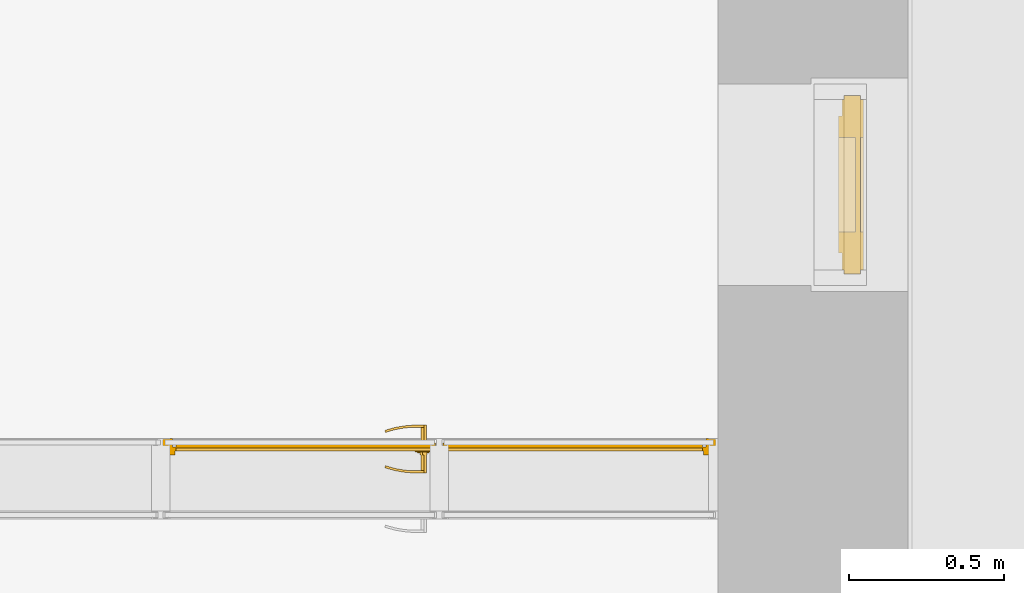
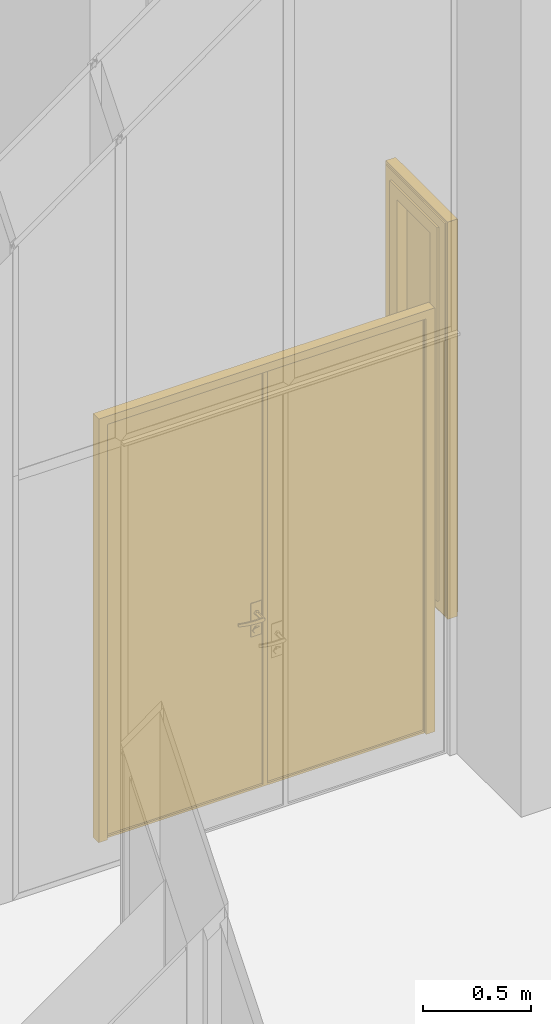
# One storey, part 163 of 246: 1 door, 1 window, 2 elements without a shape of their own.
"""IFC2X3 building model written with IfcOpenShell, lengths in millimetres."""

from ifc_helpers import new_model, entity, si_unit, converted_unit, derived_unit, money_unit, direction, frame, origin_with_axes, place, context, subcontext, project, spatial, open_shell, faceted_brep, surface_model, material, material_list, type_object, element, aggregate, save


model = new_model("IFC2X3")

# Units and contexts
model_context = context("Model", 3, precision=0.01, world=origin_with_axes(), true_north=direction((0.0, 1.0)))
body_context = subcontext(model_context, "Body", "Model", "MODEL_VIEW")
ifc_project = project(units=[si_unit("LENGTHUNIT", "METRE", prefix="MILLI"), si_unit("AREAUNIT", "SQUARE_METRE"), si_unit("VOLUMEUNIT", "CUBIC_METRE"), converted_unit("PLANEANGLEUNIT", "DEGREE", entity("IfcPlaneAngleMeasure", 0.0174532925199), si_unit("PLANEANGLEUNIT", "RADIAN"), dimensions=[0, 0, 0, 0, 0, 0, 0]), si_unit("SOLIDANGLEUNIT", "STERADIAN"), money_unit("EUR"), converted_unit("TIMEUNIT", "Year", entity("IfcTimeMeasure", 31556926.0), si_unit("TIMEUNIT", "SECOND"), dimensions=[0, 0, 1, 0, 0, 0, 0]), si_unit("MASSUNIT", "GRAM", prefix="KILO"), si_unit("THERMODYNAMICTEMPERATUREUNIT", "DEGREE_CELSIUS"), si_unit("LUMINOUSINTENSITYUNIT", "LUMEN"), si_unit("ENERGYUNIT", "JOULE", prefix="MEGA"), derived_unit("THERMALCONDUCTANCEUNIT", [(si_unit("POWERUNIT", "WATT"), 1), (si_unit("LENGTHUNIT", "METRE"), -1), (si_unit("THERMODYNAMICTEMPERATUREUNIT", "KELVIN"), -1)]), derived_unit("SPECIFICHEATCAPACITYUNIT", [(si_unit("ENERGYUNIT", "JOULE"), 1), (si_unit("MASSUNIT", "GRAM", prefix="KILO"), -1), (si_unit("THERMODYNAMICTEMPERATUREUNIT", "KELVIN"), -1)]), derived_unit("MASSDENSITYUNIT", [(si_unit("MASSUNIT", "GRAM", prefix="KILO"), 1), (si_unit("VOLUMEUNIT", "CUBIC_METRE"), -1)])], contexts=[model_context])

# Site, building, storey
site_placement = place(None, origin_with_axes())
site = spatial("IfcSite", under=ifc_project, at=site_placement, Name="L.Koidula tn 11b", CompositionType="ELEMENT")
building_placement = place(site_placement, origin_with_axes())
building = spatial("IfcBuilding", under=site, at=building_placement, Name="Rakvere Riigigümnaasium", CompositionType="ELEMENT")
storey_placement = place(building_placement, origin_with_axes())
storey = spatial("IfcBuildingStorey", under=building, at=storey_placement, Name="1.korrus 0,00", CompositionType="ELEMENT", Elevation=0.0)

# Curtain wall, door
curtain_wall_type = type_object("IfcCurtainWallType", Name="Curtain Wall Type", PredefinedType="NOTDEFINED")
curtain_wall_1_placement = place(storey_placement, frame((46549.9999923, 61580.5357918, -4.47035262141e-05), z_axis=(0.0, 0.0, 1.0), x_axis=(1.0, 0.0, 0.0)))
curtain_wall_1 = element("IfcCurtainWall", 1, at=curtain_wall_1_placement, inside=storey, type_object=curtain_wall_type, Name="SKLF-05")
ifc_material_1 = material(Name="Alumiinium.")
ifc_material_2 = material(Name="VKR-05_Klaas")
ifc_material_3 = material(Name="ET-07_Teras - Roostevaba")
ifc_material_list_1 = material_list([ifc_material_1, ifc_material_2, ifc_material_3])
door_style = type_object("IfcDoorStyle", Name="Siseklaasfassaad - Klaasuks-2-poolne 900 x 2385 x 20", ConstructionType="NOTDEFINED", OperationType="NOTDEFINED", ParameterTakesPrecedence=False, Sizeable=False)
door_placement = place(curtain_wall_1_placement, frame((-450.000000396, 0.0, 1200.00002235), z_axis=(0.0, 0.0, 1.0), x_axis=(-1.0, 0.0, 0.0)))
door = element("IfcDoor", 2, at=door_placement, type_object=door_style, material=ifc_material_list_1, Name="Panel-Siseklaasf-009", ObjectType="DOOR", context=body_context, shape_type="SurfaceModel", body=[
    faceted_brep([(-900.000001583, 20.0, -1200.00002235), (-900.000001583, 20.0, 1200.00002235), (-900.000001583, 34.0, 1200.00002235), (-900.000001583, 34.0, -1200.00002235), (-854.000001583, 20.0, -1200.00002235), (-854.000001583, 20.0, 1154.00002235), (-854.000001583, 34.0, 1154.00002235), (-854.000001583, 34.0, -1200.00002235)], [[[0, 1, 2, 3]], [[0, 4, 5, 1]], [[1, 5, 6, 2]], [[3, 2, 6, 7]], [[4, 0, 3, 7]], [[5, 4, 7, 6]]]),
    faceted_brep([(900.000000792, 20.0, 1200.00002235), (854.000000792, 20.0, 1154.00002235), (854.000000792, 34.0, 1154.00002235), (900.000000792, 34.0, 1200.00002235), (-900.000001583, 20.0, 1200.00002235), (-854.000001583, 20.0, 1154.00002235), (-854.000001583, 34.0, 1154.00002235), (-900.000001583, 34.0, 1200.00002235)], [[[0, 1, 2, 3]], [[0, 4, 5, 1]], [[1, 5, 6, 2]], [[3, 2, 6, 7]], [[4, 0, 3, 7]], [[5, 4, 7, 6]]]),
    faceted_brep([(900.000000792, 20.0, -1200.00002235), (854.000000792, 20.0, -1200.00002235), (854.000000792, 34.0, -1200.00002235), (900.000000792, 34.0, -1200.00002235), (900.000000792, 20.0, 1200.00002235), (854.000000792, 20.0, 1154.00002235), (854.000000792, 34.0, 1154.00002235), (900.000000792, 34.0, 1200.00002235)], [[[0, 1, 2, 3]], [[0, 4, 5, 1]], [[1, 5, 6, 2]], [[3, 2, 6, 7]], [[4, 0, 3, 7]], [[5, 4, 7, 6]]]),
    faceted_brep([(-900.000001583, -20.0, -1200.00002235), (-900.000001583, -20.0, 1200.00002235), (-900.000001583, 20.0, 1200.00002235), (-900.000001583, 20.0, -1200.00002235), (-862.000001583, -20.0, -1200.00002235), (-862.000001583, -20.0, 1162.00002235), (-862.000001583, 20.0, 1162.00002235), (-862.000001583, 20.0, -1200.00002235)], [[[0, 1, 2, 3]], [[0, 4, 5, 1]], [[1, 5, 6, 2]], [[3, 2, 6, 7]], [[4, 0, 3, 7]], [[5, 4, 7, 6]]]),
    faceted_brep([(900.000000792, -20.0, 1200.00002235), (862.000000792, -20.0, 1162.00002235), (862.000000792, 20.0, 1162.00002235), (900.000000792, 20.0, 1200.00002235), (-900.000001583, -20.0, 1200.00002235), (-862.000001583, -20.0, 1162.00002235), (-862.000001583, 20.0, 1162.00002235), (-900.000001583, 20.0, 1200.00002235)], [[[0, 1, 2, 3]], [[0, 4, 5, 1]], [[1, 5, 6, 2]], [[3, 2, 6, 7]], [[4, 0, 3, 7]], [[5, 4, 7, 6]]]),
    faceted_brep([(900.000000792, -20.0, -1200.00002235), (862.000000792, -20.0, -1200.00002235), (862.000000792, 20.0, -1200.00002235), (900.000000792, 20.0, -1200.00002235), (900.000000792, -20.0, 1200.00002235), (862.000000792, -20.0, 1162.00002235), (862.000000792, 20.0, 1162.00002235), (900.000000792, 20.0, 1200.00002235)], [[[0, 1, 2, 3]], [[0, 4, 5, 1]], [[1, 5, 6, 2]], [[3, 2, 6, 7]], [[4, 0, 3, 7]], [[5, 4, 7, 6]]]),
    faceted_brep([(-900.000001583, -10.0, 1200.00002235), (900.000000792, -10.0, 1200.00002235), (900.000000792, 10.0, 1200.00002235), (-900.000001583, 10.0, 1200.00002235), (-899.999996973, -10.0, 1185.00002207), (900.000000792, -10.0, 1185.00002207), (900.000000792, 10.0, 1185.00002207), (-899.999996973, 10.0, 1185.00002207)], [[[0, 1, 2, 3]], [[0, 4, 5, 1]], [[1, 5, 6, 2]], [[3, 2, 6, 7]], [[4, 0, 3, 7]], [[5, 4, 7, 6]]]),
    faceted_brep([(850.000000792, 20.0, -1188.00002235), (850.000000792, 8.0, -1188.00002235), (850.000000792, 8.0, 1150.00002235), (850.000000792, 20.0, 1150.00002235), (862.000000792, 20.0, -1200.00002235), (862.000000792, 8.0, -1200.00002235), (862.000000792, 8.0, 1162.00002235), (862.000000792, 20.0, 1162.00002235)], [[[0, 1, 2, 3]], [[4, 5, 1, 0]], [[1, 5, 6, 2]], [[3, 2, 6, 7]], [[0, 3, 7, 4]], [[7, 6, 5, 4]]]),
    faceted_brep([(-3.95786514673e-07, 20.0, -1200.00002235), (-3.95786514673e-07, 8.0, -1200.00002235), (-3.95786514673e-07, 8.0, 1162.00002235), (-3.95786514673e-07, 20.0, 1162.00002235), (11.9999996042, 20.0, -1188.00002235), (11.9999996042, 8.0, -1188.00002235), (11.9999996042, 8.0, 1150.00002235), (11.9999996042, 20.0, 1150.00002235)], [[[0, 1, 2, 3]], [[4, 5, 1, 0]], [[1, 5, 6, 2]], [[3, 2, 6, 7]], [[0, 3, 7, 4]], [[7, 6, 5, 4]]]),
    faceted_brep([(-3.95786514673e-07, 20.0, -1200.00002235), (-3.95786514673e-07, 8.0, -1200.00002235), (11.9999996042, 8.0, -1188.00002235), (11.9999996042, 20.0, -1188.00002235), (862.000000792, 20.0, -1200.00002235), (862.000000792, 8.0, -1200.00002235), (850.000000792, 8.0, -1188.00002235), (850.000000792, 20.0, -1188.00002235)], [[[0, 1, 2, 3]], [[4, 5, 1, 0]], [[1, 5, 6, 2]], [[3, 2, 6, 7]], [[0, 3, 7, 4]], [[7, 6, 5, 4]]]),
    faceted_brep([(862.000000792, 20.0, 1162.00002235), (862.000000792, 8.0, 1162.00002235), (850.000000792, 8.0, 1150.00002235), (850.000000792, 20.0, 1150.00002235), (-3.95786514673e-07, 20.0, 1162.00002235), (-3.95786514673e-07, 8.0, 1162.00002235), (11.9999996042, 8.0, 1150.00002235), (11.9999996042, 20.0, 1150.00002235)], [[[0, 1, 2, 3]], [[4, 5, 1, 0]], [[1, 5, 6, 2]], [[3, 2, 6, 7]], [[0, 3, 7, 4]], [[7, 6, 5, 4]]]),
    faceted_brep([(850.000000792, 10.0, -1188.00002235), (850.000000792, -6.0, -1188.00002235), (11.9999996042, -6.0, -1188.00002235), (11.9999996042, 10.0, -1188.00002235), (850.000000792, 10.0, 1150.00002235), (850.000000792, -6.0, 1150.00002235), (11.9999996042, -6.0, 1150.00002235), (11.9999996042, 10.0, 1150.00002235)], [[[0, 1, 2, 3]], [[4, 5, 1, 0]], [[1, 5, 6, 2]], [[3, 2, 6, 7]], [[0, 3, 7, 4]], [[7, 6, 5, 4]]]),
    faceted_brep([(21.4999996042, 8.0, -140.000022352), (21.4999996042, 5.0, -140.000022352), (78.4999996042, 5.0, -140.000022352), (78.4999996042, 8.0, -140.000022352), (21.4999996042, 8.0, -330.000022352), (21.4999996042, 5.0, -330.000022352), (78.4999996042, 5.0, -330.000022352), (78.4999996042, 8.0, -330.000022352)], [[[0, 1, 2, 3]], [[4, 5, 1, 0]], [[1, 5, 6, 2]], [[3, 2, 6, 7]], [[0, 3, 7, 4]], [[7, 6, 5, 4]]]),
    surface_model("IfcShellBasedSurfaceModel", [(49.9999996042, -56.0, -210.000022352), (49.9999996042, -63.0, -210.000022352), (41.3397455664, -63.0, -205.000022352), (41.3397455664, -56.0, -205.000022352), (74.9999996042, -56.0, -210.000022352), (74.9999996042, -63.0, -210.000022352), (74.9999996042, -63.0, -190.000022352), (49.9999996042, -63.0, -190.000022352), (41.3397455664, -63.0, -195.000022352), (41.3397455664, -56.0, -195.000022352), (49.9999996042, -56.0, -190.000022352), (74.9999996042, -56.0, -190.000022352)], [open_shell([[[0, 1, 2, 3]], [[4, 5, 1, 0]], [[1, 5, 6, 7, 8, 2]], [[3, 2, 8, 9]], [[0, 3, 9, 10, 11, 4]], [[10, 7, 6, 11]], [[9, 8, 7, 10]]])]),
    surface_model("IfcShellBasedSurfaceModel", [(74.9999996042, -56.0, -190.000022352), (88.4039090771, -63.0, -190.392721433), (88.0982824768, -56.0, -190.392721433), (74.9999996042, -63.0, -190.000022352), (115.109716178, -60.6635446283, -191.178119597), (88.0982824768, -56.0, -209.60732327), (74.9999996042, -56.0, -210.000022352), (74.9999996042, -63.0, -210.000022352), (88.4039090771, -63.0, -209.60732327), (115.109716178, -60.6635446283, -208.821925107), (114.19516238, -53.716818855, -191.178119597), (114.19516238, -53.716818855, -208.821925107), (141.510264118, -56.0084157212, -208.036526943), (141.510264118, -56.0084157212, -191.96351776), (139.993743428, -49.1678329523, -191.96351776), (139.993743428, -49.1678329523, -208.036526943), (167.404628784, -49.0700416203, -207.25112878), (167.404628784, -49.0700416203, -192.748915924), (165.297682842, -42.3876628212, -192.748915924), (165.297682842, -42.3876628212, -207.25112878), (175.461203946, -46.1376880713, -207.000022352), (175.461203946, -46.1376880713, -193.000022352), (173.170557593, -39.5221707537, -193.000022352), (173.170557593, -39.5221707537, -207.000022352)], [open_shell([[[0, 1, 2]], [[0, 3, 1]], [[2, 1, 4]], [[0, 2, 5, 6]], [[3, 7, 8, 1]], [[1, 8, 9, 4]], [[2, 4, 10]], [[2, 10, 11, 5]], [[5, 7, 6]], [[5, 8, 7]], [[11, 9, 8]], [[4, 9, 12, 13]], [[10, 4, 13]], [[10, 14, 15, 11]], [[11, 8, 5]], [[15, 9, 11]], [[15, 12, 9]], [[13, 12, 16, 17]], [[10, 13, 14]], [[14, 18, 19, 15]], [[19, 12, 15]], [[19, 16, 12]], [[17, 16, 20, 21]], [[14, 13, 17]], [[14, 17, 18]], [[18, 22, 23, 19]], [[23, 16, 19]], [[23, 20, 16]], [[22, 21, 20, 23]], [[18, 17, 21]], [[18, 21, 22]]])]),
    faceted_brep([(53.7082035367, -5.0, -211.412700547), (54.0172205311, 5.0, -212.363757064), (62.9999996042, 5.0, -200.000022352), (61.9999996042, -5.0, -200.000022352), (40.2917956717, -5.0, -207.053445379), (39.4827786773, 5.0, -207.641230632), (39.4827786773, 5.0, -192.358814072), (54.0172205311, 5.0, -187.63628764), (53.7082035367, -5.0, -188.587344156), (40.2917956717, -5.0, -192.946599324)], [[[0, 1, 2, 3]], [[4, 5, 1, 0]], [[2, 1, 5, 6, 7]], [[3, 2, 7, 8]], [[3, 8, 9, 4, 0]], [[9, 6, 5, 4]], [[8, 7, 6, 9]]]),
    faceted_brep([(56.1803394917, 0.999999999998, -314.021152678), (56.7983734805, 5.0, -315.92326571), (71.9999996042, 5.0, -295.000022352), (69.9999996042, 0.999999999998, -295.000022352), (33.8196597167, 0.999999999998, -306.755727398), (32.201625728, 5.0, -307.931297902), (32.201625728, 5.0, -282.068746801), (56.7983734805, 5.0, -274.076778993), (56.1803394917, 0.999999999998, -275.978892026), (33.8196597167, 0.999999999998, -283.244317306)], [[[0, 1, 2, 3]], [[4, 5, 1, 0]], [[2, 1, 5, 6, 7]], [[3, 2, 7, 8]], [[3, 8, 9, 4, 0]], [[9, 6, 5, 4]], [[8, 7, 6, 9]]]),
    faceted_brep([(52.1631185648, -0.999999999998, -292.657417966), (52.4721355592, 0.999999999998, -293.608474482), (57.9999996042, 0.999999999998, -286.000022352), (56.9999996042, -0.999999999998, -286.000022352), (44.3368806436, -0.999999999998, -290.114519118), (43.5278636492, 0.999999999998, -290.70230437), (43.5278636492, 0.999999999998, -281.297740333), (52.4721355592, 0.999999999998, -278.391570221), (52.1631185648, -0.999999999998, -279.342626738), (44.3368806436, -0.999999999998, -281.885525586)], [[[0, 1, 2, 3]], [[4, 5, 1, 0]], [[2, 1, 5, 6, 7]], [[3, 2, 7, 8]], [[3, 8, 9, 4, 0]], [[9, 6, 5, 4]], [[8, 7, 6, 9]]]),
    faceted_brep([(49.9999996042, -5.0, -190.000022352), (49.9999996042, -56.0, -190.000022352), (59.5105647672, -56.0, -196.909852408), (59.5105647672, -5.0, -196.909852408), (40.4894344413, -5.0, -196.909852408), (40.4894344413, -56.0, -196.909852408), (44.1221470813, -56.0, -208.090192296), (55.8778521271, -56.0, -208.090192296), (55.8778521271, -5.0, -208.090192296), (44.1221470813, -5.0, -208.090192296)], [[[0, 1, 2, 3]], [[4, 5, 1, 0]], [[1, 5, 6, 7, 2]], [[3, 2, 7, 8]], [[0, 3, 8, 9, 4]], [[9, 6, 5, 4]], [[8, 7, 6, 9]]]),
    faceted_brep([(21.4999996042, 20.0, -140.000022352), (78.4999996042, 20.0, -140.000022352), (78.4999996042, 23.0, -140.000022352), (21.4999996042, 23.0, -140.000022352), (21.4999996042, 20.0, -330.000022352), (78.4999996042, 20.0, -330.000022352), (78.4999996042, 23.0, -330.000022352), (21.4999996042, 23.0, -330.000022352)], [[[0, 1, 2, 3]], [[0, 4, 5, 1]], [[1, 5, 6, 2]], [[3, 2, 6, 7]], [[4, 0, 3, 7]], [[5, 4, 7, 6]]]),
    surface_model("IfcShellBasedSurfaceModel", [(49.9999996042, 84.0, -210.000022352), (41.3397455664, 84.0, -205.000022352), (41.3397455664, 91.0, -205.000022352), (49.9999996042, 91.0, -210.000022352), (74.9999996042, 84.0, -210.000022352), (74.9999996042, 84.0, -190.000022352), (49.9999996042, 84.0, -190.000022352), (41.3397455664, 84.0, -195.000022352), (41.3397455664, 91.0, -195.000022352), (49.9999996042, 91.0, -190.000022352), (74.9999996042, 91.0, -190.000022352), (74.9999996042, 91.0, -210.000022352)], [open_shell([[[0, 1, 2, 3]], [[0, 4, 5, 6, 7, 1]], [[1, 7, 8, 2]], [[3, 2, 8, 9, 10, 11]], [[4, 0, 3, 11]], [[6, 5, 10, 9]], [[7, 6, 9, 8]]])]),
    surface_model("IfcShellBasedSurfaceModel", [(74.9999996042, 84.0, -190.000022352), (88.0982824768, 84.0, -190.392721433), (88.4039090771, 91.0, -190.392721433), (74.9999996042, 84.0, -210.000022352), (88.0982824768, 84.0, -209.60732327), (115.109716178, 88.6635446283, -191.178119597), (74.9999996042, 91.0, -190.000022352), (74.9999996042, 91.0, -210.000022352), (114.19516238, 81.716818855, -208.821925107), (114.19516238, 81.716818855, -191.178119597), (115.109716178, 88.6635446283, -208.821925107), (88.4039090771, 91.0, -209.60732327), (139.993743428, 77.1678329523, -208.036526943), (139.993743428, 77.1678329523, -191.96351776), (141.510264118, 84.0084157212, -191.96351776), (141.510264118, 84.0084157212, -208.036526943), (165.297682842, 70.3876628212, -207.25112878), (165.297682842, 70.3876628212, -192.748915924), (167.404628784, 77.0700416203, -192.748915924), (167.404628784, 77.0700416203, -207.25112878), (173.170557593, 67.5221707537, -207.000022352), (173.170557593, 67.5221707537, -193.000022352), (175.461203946, 74.1376880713, -193.000022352), (175.461203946, 74.1376880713, -207.000022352)], [open_shell([[[0, 1, 2]], [[0, 3, 4, 1]], [[1, 5, 2]], [[0, 2, 6]], [[4, 3, 7]], [[1, 4, 8, 9]], [[1, 9, 5]], [[2, 5, 10, 11]], [[6, 2, 11, 7]], [[4, 7, 11]], [[8, 4, 11]], [[9, 8, 12, 13]], [[9, 14, 5]], [[5, 14, 15, 10]], [[8, 11, 10]], [[12, 8, 10]], [[13, 12, 16, 17]], [[9, 13, 14]], [[14, 18, 19, 15]], [[12, 10, 15]], [[16, 12, 15]], [[17, 16, 20, 21]], [[13, 17, 18]], [[13, 18, 14]], [[18, 22, 23, 19]], [[16, 15, 19]], [[20, 16, 19]], [[21, 20, 23, 22]], [[17, 21, 22]], [[17, 22, 18]], [[20, 19, 23]]])]),
    faceted_brep([(53.7082035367, 33.0, -211.412700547), (61.9999996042, 33.0, -200.000022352), (62.9999996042, 23.0, -200.000022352), (54.0172205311, 23.0, -212.363757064), (40.2917956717, 33.0, -207.053445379), (40.2917956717, 33.0, -192.946599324), (53.7082035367, 33.0, -188.587344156), (54.0172205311, 23.0, -187.63628764), (39.4827786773, 23.0, -192.358814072), (39.4827786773, 23.0, -207.641230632)], [[[0, 1, 2, 3]], [[1, 0, 4, 5, 6]], [[1, 6, 7, 2]], [[2, 7, 8, 9, 3]], [[4, 0, 3, 9]], [[5, 4, 9, 8]], [[6, 5, 8, 7]]]),
    faceted_brep([(56.1803394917, 27.0, -314.021152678), (69.9999996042, 27.0, -295.000022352), (71.9999996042, 23.0, -295.000022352), (56.7983734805, 23.0, -315.92326571), (33.8196597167, 27.0, -306.755727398), (33.8196597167, 27.0, -283.244317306), (56.1803394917, 27.0, -275.978892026), (56.7983734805, 23.0, -274.076778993), (32.201625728, 23.0, -282.068746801), (32.201625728, 23.0, -307.931297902)], [[[0, 1, 2, 3]], [[1, 0, 4, 5, 6]], [[1, 6, 7, 2]], [[2, 7, 8, 9, 3]], [[4, 0, 3, 9]], [[5, 4, 9, 8]], [[6, 5, 8, 7]]]),
    faceted_brep([(52.1631185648, 29.0, -292.657417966), (56.9999996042, 29.0, -286.000022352), (57.9999996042, 27.0, -286.000022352), (52.4721355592, 27.0, -293.608474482), (44.3368806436, 29.0, -290.114519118), (44.3368806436, 29.0, -281.885525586), (52.1631185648, 29.0, -279.342626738), (52.4721355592, 27.0, -278.391570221), (43.5278636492, 27.0, -281.297740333), (43.5278636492, 27.0, -290.70230437)], [[[0, 1, 2, 3]], [[1, 0, 4, 5, 6]], [[1, 6, 7, 2]], [[2, 7, 8, 9, 3]], [[4, 0, 3, 9]], [[5, 4, 9, 8]], [[6, 5, 8, 7]]]),
    faceted_brep([(49.9999996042, 33.0, -190.000022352), (59.5105647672, 33.0, -196.909852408), (59.5105647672, 84.0, -196.909852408), (49.9999996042, 84.0, -190.000022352), (40.4894344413, 33.0, -196.909852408), (44.1221470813, 33.0, -208.090192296), (55.8778521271, 33.0, -208.090192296), (55.8778521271, 84.0, -208.090192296), (44.1221470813, 84.0, -208.090192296), (40.4894344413, 84.0, -196.909852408)], [[[0, 1, 2, 3]], [[0, 4, 5, 6, 1]], [[1, 6, 7, 2]], [[3, 2, 7, 8, 9]], [[4, 0, 3, 9]], [[5, 4, 9, 8]], [[6, 5, 8, 7]]]),
    faceted_brep([(-12.0000003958, 20.0, -1188.00002235), (-12.0000003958, 8.0, -1188.00002235), (-12.0000003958, 8.0, 1150.00002235), (-12.0000003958, 20.0, 1150.00002235), (-3.957936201e-07, 20.0, -1200.00002235), (-3.957936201e-07, 8.0, -1200.00002235), (-3.957936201e-07, 8.0, 1162.00002235), (-3.957936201e-07, 20.0, 1162.00002235)], [[[0, 1, 2, 3]], [[4, 5, 1, 0]], [[1, 5, 6, 2]], [[3, 2, 6, 7]], [[0, 3, 7, 4]], [[7, 6, 5, 4]]]),
    faceted_brep([(-862.000001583, 20.0, -1200.00002235), (-862.000001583, 8.0, -1200.00002235), (-862.000001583, 8.0, 1162.00002235), (-862.000001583, 20.0, 1162.00002235), (-850.000001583, 20.0, -1188.00002235), (-850.000001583, 8.0, -1188.00002235), (-850.000001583, 8.0, 1150.00002235), (-850.000001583, 20.0, 1150.00002235)], [[[0, 1, 2, 3]], [[4, 5, 1, 0]], [[1, 5, 6, 2]], [[3, 2, 6, 7]], [[0, 3, 7, 4]], [[7, 6, 5, 4]]]),
    faceted_brep([(-862.000001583, 20.0, -1200.00002235), (-862.000001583, 8.0, -1200.00002235), (-850.000001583, 8.0, -1188.00002235), (-850.000001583, 20.0, -1188.00002235), (-3.957936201e-07, 20.0, -1200.00002235), (-3.957936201e-07, 8.0, -1200.00002235), (-12.0000003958, 8.0, -1188.00002235), (-12.0000003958, 20.0, -1188.00002235)], [[[0, 1, 2, 3]], [[4, 5, 1, 0]], [[1, 5, 6, 2]], [[3, 2, 6, 7]], [[0, 3, 7, 4]], [[7, 6, 5, 4]]]),
    faceted_brep([(-3.957936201e-07, 20.0, 1162.00002235), (-3.957936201e-07, 8.0, 1162.00002235), (-12.0000003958, 8.0, 1150.00002235), (-12.0000003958, 20.0, 1150.00002235), (-862.000001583, 20.0, 1162.00002235), (-862.000001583, 8.0, 1162.00002235), (-850.000001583, 8.0, 1150.00002235), (-850.000001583, 20.0, 1150.00002235)], [[[0, 1, 2, 3]], [[4, 5, 1, 0]], [[1, 5, 6, 2]], [[3, 2, 6, 7]], [[0, 3, 7, 4]], [[7, 6, 5, 4]]]),
    faceted_brep([(-12.0000003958, 10.0, -1188.00002235), (-12.0000003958, -6.0, -1188.00002235), (-850.000001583, -6.0, -1188.00002235), (-850.000001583, 10.0, -1188.00002235), (-12.0000003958, 10.0, 1150.00002235), (-12.0000003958, -6.0, 1150.00002235), (-850.000001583, -6.0, 1150.00002235), (-850.000001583, 10.0, 1150.00002235)], [[[0, 1, 2, 3]], [[4, 5, 1, 0]], [[1, 5, 6, 2]], [[3, 2, 6, 7]], [[0, 3, 7, 4]], [[7, 6, 5, 4]]]),
])
aggregate(curtain_wall_1, [door])

# Curtain wall, window
curtain_wall_2_placement = place(storey_placement, frame((47433.9999935, 62420.4545024, 99.9999847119), z_axis=(0.0, 0.0, 1.0), x_axis=(1.0, 0.0, 0.0)))
curtain_wall_2 = element("IfcCurtainWall", 3, at=curtain_wall_2_placement, inside=storey, type_object=curtain_wall_type, Name="KLF-07-11")
ifc_material_4 = material(Name="Alumiiniumprofiil (RAL 7021)")
ifc_material_5 = material(Name="Klaaspakett 3x")
ifc_material_list_2 = material_list([ifc_material_4, ifc_material_5])
window_style = type_object("IfcWindowStyle", Name="576 x 2251 x 54", ConstructionType="NOTDEFINED", OperationType="NOTDEFINED", ParameterTakesPrecedence=False, Sizeable=False)
window_placement = place(curtain_wall_2_placement, frame((0.0, 0.0, 1150.00000764), z_axis=(0.0, 0.0, 1.0), x_axis=(0.0, 1.0, 0.0)))
window = element("IfcWindow", 4, at=window_placement, type_object=window_style, material=ifc_material_list_2, Name="KLF-07-A-1", ObjectType="WINDOW", context=body_context, shape_type="SurfaceModel", body=[
    surface_model("IfcShellBasedSurfaceModel", [(275.000173, -36.0, -1100.00000582), (-275.000189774, -36.0, -1100.00000582), (-221.000189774, -36.0, -1046.00000582), (221.000173, -36.0, -1046.00000582)], [open_shell([[[0, 1, 2, 3]]])]),
    surface_model("IfcShellBasedSurfaceModel", [(-275.000189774, -36.0, -1100.00000582), (-275.000189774, -36.0, 1125.00002387), (-221.000189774, -36.0, 1071.00002387), (-221.000189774, -36.0, -1046.00000582)], [open_shell([[[0, 1, 2, 3]]])]),
    surface_model("IfcShellBasedSurfaceModel", [(275.000173, -36.0, 1125.00002387), (221.000173, -36.0, 1071.00002387), (-221.000189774, -36.0, 1071.00002387), (-275.000189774, -36.0, 1125.00002387)], [open_shell([[[0, 1, 2, 3]]])]),
    surface_model("IfcShellBasedSurfaceModel", [(275.000173, -36.0, -1100.00000582), (221.000173, -36.0, -1046.00000582), (221.000173, -36.0, 1071.00002387), (275.000173, -36.0, 1125.00002387)], [open_shell([[[0, 1, 2, 3]]])]),
    faceted_brep([(275.000173, 34.0, -1100.00000582), (275.000173, -36.0, -1100.00000582), (-275.000189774, -36.0, -1100.00000582), (-275.000189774, 34.0, -1100.00000582), (221.000173, 34.0, -1046.00000582), (221.000173, -36.0, -1046.00000582), (-221.000189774, -36.0, -1046.00000582), (-221.000189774, 34.0, -1046.00000582)], [[[0, 1, 2, 3]], [[4, 5, 1, 0]], [[1, 5, 6, 2]], [[3, 2, 6, 7]], [[0, 3, 7, 4]], [[7, 6, 5, 4]]]),
    faceted_brep([(-275.000189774, 34.0, -1100.00000582), (-275.000189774, -36.0, -1100.00000582), (-275.000189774, -36.0, 1125.00002387), (-275.000189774, 34.0, 1125.00002387), (-221.000189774, 34.0, -1046.00000582), (-221.000189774, -36.0, -1046.00000582), (-221.000189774, -36.0, 1071.00002387), (-221.000189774, 34.0, 1071.00002387)], [[[0, 1, 2, 3]], [[4, 5, 1, 0]], [[1, 5, 6, 2]], [[3, 2, 6, 7]], [[0, 3, 7, 4]], [[7, 6, 5, 4]]]),
    faceted_brep([(275.000173, 34.0, 1125.00002387), (275.000173, -36.0, 1125.00002387), (221.000173, -36.0, 1071.00002387), (221.000173, 34.0, 1071.00002387), (-275.000189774, 34.0, 1125.00002387), (-275.000189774, -36.0, 1125.00002387), (-221.000189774, -36.0, 1071.00002387), (-221.000189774, 34.0, 1071.00002387)], [[[0, 1, 2, 3]], [[4, 5, 1, 0]], [[1, 5, 6, 2]], [[3, 2, 6, 7]], [[0, 3, 7, 4]], [[7, 6, 5, 4]]]),
    faceted_brep([(275.000173, 34.0, -1100.00000582), (275.000173, -36.0, -1100.00000582), (221.000173, -36.0, -1046.00000582), (221.000173, 34.0, -1046.00000582), (275.000173, 34.0, 1125.00002387), (275.000173, -36.0, 1125.00002387), (221.000173, -36.0, 1071.00002387), (221.000173, 34.0, 1071.00002387)], [[[0, 1, 2, 3]], [[4, 5, 1, 0]], [[1, 5, 6, 2]], [[3, 2, 6, 7]], [[0, 3, 7, 4]], [[7, 6, 5, 4]]]),
    faceted_brep([(288.000186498, 27.0, -1113.00001932), (288.000186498, -27.0, -1113.00001932), (-288.000203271, -27.0, -1113.00001932), (-288.000203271, 27.0, -1113.00001932), (275.000173, 27.0, -1100.00000582), (275.000173, -27.0, -1100.00000582), (-275.000189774, -27.0, -1100.00000582), (-275.000189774, 27.0, -1100.00000582)], [[[0, 1, 2, 3]], [[4, 5, 1, 0]], [[1, 5, 6, 2]], [[3, 2, 6, 7]], [[0, 3, 7, 4]], [[7, 6, 5, 4]]]),
    faceted_brep([(-288.000203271, 27.0, -1113.00001932), (-288.000203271, -27.0, -1113.00001932), (-288.000203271, -27.0, 1138.00000309), (-288.000203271, 27.0, 1138.00000309), (-275.000189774, 27.0, -1100.00000582), (-275.000189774, -27.0, -1100.00000582), (-275.000189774, -27.0, 1125.00002387), (-275.000189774, 27.0, 1125.00002387)], [[[0, 1, 2, 3]], [[4, 5, 1, 0]], [[1, 5, 6, 2]], [[3, 2, 6, 7]], [[0, 3, 7, 4]], [[7, 6, 5, 4]]]),
    faceted_brep([(-288.000203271, 27.0, 1138.00000309), (-288.000203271, -27.0, 1138.00000309), (288.000186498, -27.0, 1138.00000309), (288.000186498, 27.0, 1138.00000309), (-275.000189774, 27.0, 1125.00002387), (-275.000189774, -27.0, 1125.00002387), (275.000173, -27.0, 1125.00002387), (275.000173, 27.0, 1125.00002387)], [[[0, 1, 2, 3]], [[4, 5, 1, 0]], [[1, 5, 6, 2]], [[3, 2, 6, 7]], [[0, 3, 7, 4]], [[7, 6, 5, 4]]]),
    faceted_brep([(288.000186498, 27.0, 1138.00000309), (288.000186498, -27.0, 1138.00000309), (288.000186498, -27.0, -1113.00001932), (288.000186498, 27.0, -1113.00001932), (275.000173, 27.0, 1125.00002387), (275.000173, -27.0, 1125.00002387), (275.000173, -27.0, -1100.00000582), (275.000173, 27.0, -1100.00000582)], [[[0, 1, 2, 3]], [[4, 5, 1, 0]], [[1, 5, 6, 2]], [[3, 2, 6, 7]], [[0, 3, 7, 4]], [[7, 6, 5, 4]]]),
    faceted_brep([(153.000173, -36.0, -978.000005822), (153.000173, -36.0, 1003.00002387), (153.000173, 44.0, 1003.00002387), (153.000173, 44.0, -978.000005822), (221.000173, -36.0, -1046.00000582), (221.000173, -36.0, 1071.00002387), (221.000173, 44.0, 1071.00002387), (221.000173, 44.0, -1046.00000582)], [[[0, 1, 2, 3]], [[0, 4, 5, 1]], [[1, 5, 6, 2]], [[3, 2, 6, 7]], [[4, 0, 3, 7]], [[5, 4, 7, 6]]]),
    faceted_brep([(-221.000189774, -36.0, -1046.00000582), (-221.000189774, -36.0, 1071.00002387), (-221.000189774, 44.0, 1071.00002387), (-221.000189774, 44.0, -1046.00000582), (-153.000189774, -36.0, -978.000005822), (-153.000189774, -36.0, 1003.00002387), (-153.000189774, 44.0, 1003.00002387), (-153.000189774, 44.0, -978.000005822)], [[[0, 1, 2, 3]], [[0, 4, 5, 1]], [[1, 5, 6, 2]], [[3, 2, 6, 7]], [[4, 0, 3, 7]], [[5, 4, 7, 6]]]),
    faceted_brep([(-221.000189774, -36.0, -1046.00000582), (-153.000189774, -36.0, -978.000005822), (-153.000189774, 44.0, -978.000005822), (-221.000189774, 44.0, -1046.00000582), (221.000173, -36.0, -1046.00000582), (153.000173, -36.0, -978.000005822), (153.000173, 44.0, -978.000005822), (221.000173, 44.0, -1046.00000582)], [[[0, 1, 2, 3]], [[0, 4, 5, 1]], [[1, 5, 6, 2]], [[3, 2, 6, 7]], [[4, 0, 3, 7]], [[5, 4, 7, 6]]]),
    faceted_brep([(221.000173, -36.0, 1071.00002387), (153.000173, -36.0, 1003.00002387), (153.000173, 44.0, 1003.00002387), (221.000173, 44.0, 1071.00002387), (-221.000189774, -36.0, 1071.00002387), (-153.000189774, -36.0, 1003.00002387), (-153.000189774, 44.0, 1003.00002387), (-221.000189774, 44.0, 1071.00002387)], [[[0, 1, 2, 3]], [[0, 4, 5, 1]], [[1, 5, 6, 2]], [[3, 2, 6, 7]], [[4, 0, 3, 7]], [[5, 4, 7, 6]]]),
    faceted_brep([(153.000173, -27.0, -978.000005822), (-153.000189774, -27.0, -978.000005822), (-153.000189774, -11.0, -978.000005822), (153.000173, -11.0, -978.000005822), (153.000173, -27.0, 1003.00002387), (-153.000189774, -27.0, 1003.00002387), (-153.000189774, -11.0, 1003.00002387), (153.000173, -11.0, 1003.00002387)], [[[0, 1, 2, 3]], [[0, 4, 5, 1]], [[1, 5, 6, 2]], [[3, 2, 6, 7]], [[4, 0, 3, 7]], [[5, 4, 7, 6]]]),
])
aggregate(curtain_wall_2, [window])

save(model, "model.ifc")
